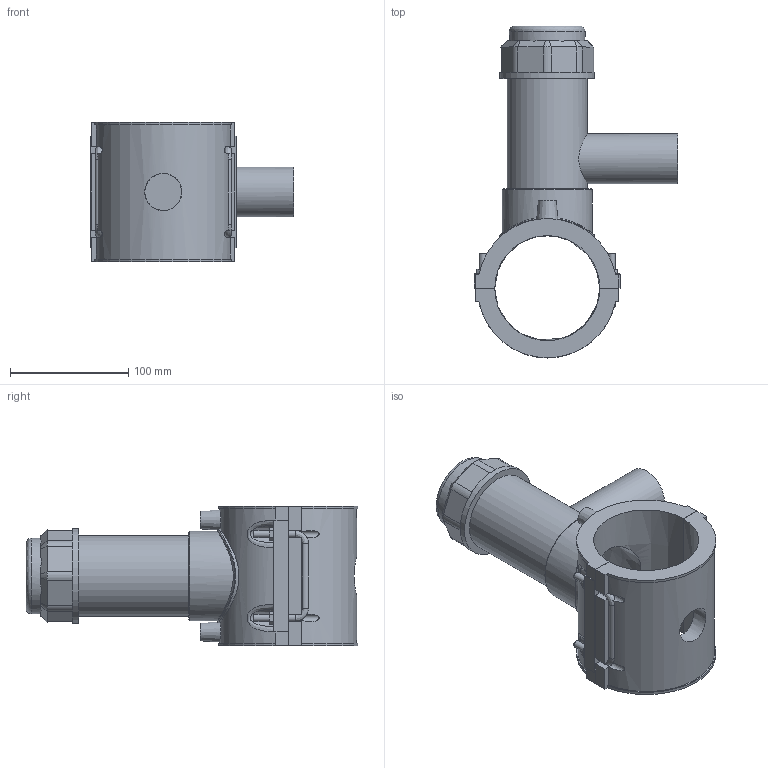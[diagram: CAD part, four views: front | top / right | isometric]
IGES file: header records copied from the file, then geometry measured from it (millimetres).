
Global section: file name: 5963BB03030013.ipt; native system: Autodesk Inventor 2019; preprocessor: unknown; author: KIM; date: 20210830.101349; units: millimetre
Bounding box: 171.43 x 280.2 x 118.11 mm (x, y, z)
Volume: 871829.6 mm3; surface area: 182701.5 mm2
Topology: 1 solids, 1 shells, 210 faces, 552 edges, 361 vertices
Faces by surface type: plane 128, cylinder 37, revolution 24, cone 15, bspline 6
Full cylindrical faces by diameter (mm): 4 x2, 6 x8, 42.1 x1, 63.864 x1, 67.856 x1, 75.838 x1, 79.83 x1
